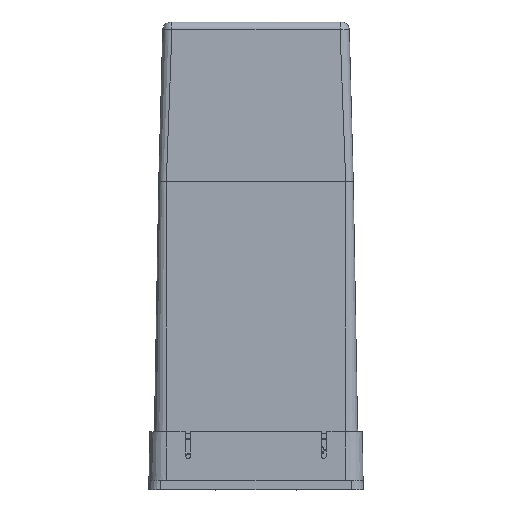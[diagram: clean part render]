
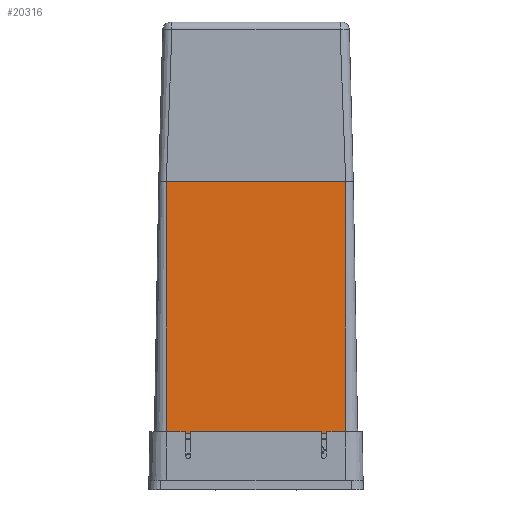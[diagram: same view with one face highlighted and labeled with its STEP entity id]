
A CAD part, front view. The second image highlights one B-rep face of the part: STEP entity #20316.
In plain terms, the highlighted planar face has unit normal (0, -1, 0.018).
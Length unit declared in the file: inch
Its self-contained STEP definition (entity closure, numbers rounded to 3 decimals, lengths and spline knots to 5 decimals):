
#935=PLANE('',#21462);
#1471=FACE_OUTER_BOUND('',#2563,.T.);
#2563=EDGE_LOOP('',(#13958,#13959,#13960,#13961));
#5025=LINE('',#29324,#6607);
#5132=LINE('',#29691,#6714);
#5147=LINE('',#29721,#6729);
#5150=LINE('',#29727,#6732);
#6607=VECTOR('',#23348,0.3937);
#6714=VECTOR('',#23609,0.3937);
#6729=VECTOR('',#23644,0.3937);
#6732=VECTOR('',#23653,0.3937);
#8199=VERTEX_POINT('',#29312);
#8200=VERTEX_POINT('',#29322);
#8256=VERTEX_POINT('',#29544);
#8297=VERTEX_POINT('',#29669);
#10366=EDGE_CURVE('',#8199,#8200,#5025,.T.);
#10513=EDGE_CURVE('',#8256,#8297,#5132,.T.);
#10530=EDGE_CURVE('',#8297,#8200,#5147,.T.);
#10533=EDGE_CURVE('',#8256,#8199,#5150,.T.);
#13958=ORIENTED_EDGE('',*,*,#10366,.T.);
#13959=ORIENTED_EDGE('',*,*,#10530,.F.);
#13960=ORIENTED_EDGE('',*,*,#10513,.F.);
#13961=ORIENTED_EDGE('',*,*,#10533,.T.);
#20316=ADVANCED_FACE('',(#1471),#935,.T.);
#21462=AXIS2_PLACEMENT_3D('',#29728,#23654,#23655);
#23348=DIRECTION('',(-1.,0.,0.));
#23609=DIRECTION('',(-1.,0.,0.));
#23644=DIRECTION('',(0.,0.017,1.));
#23653=DIRECTION('',(0.,0.017,1.));
#23654=DIRECTION('center_axis',(0.,-1.,0.017));
#23655=DIRECTION('ref_axis',(1.,0.,0.));
#29312=CARTESIAN_POINT('',(1.12503,-0.31984,3.87));
#29322=CARTESIAN_POINT('',(-1.125,-0.31984,3.87));
#29324=CARTESIAN_POINT('',(1.125,-0.31984,3.87));
#29544=CARTESIAN_POINT('',(1.125,-0.375,0.71));
#29669=CARTESIAN_POINT('',(-1.125,-0.375,0.71));
#29691=CARTESIAN_POINT('',(1.125,-0.375,0.71));
#29721=CARTESIAN_POINT('',(-1.125,-0.375,0.71));
#29727=CARTESIAN_POINT('',(1.125,-0.375,0.71));
#29728=CARTESIAN_POINT('Origin',(1.125,-0.375,0.71));
